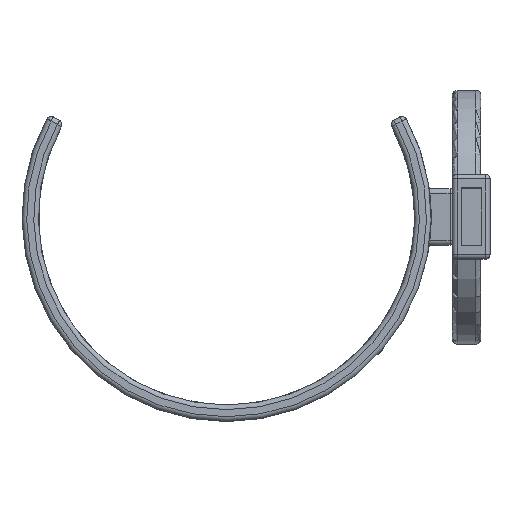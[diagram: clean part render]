
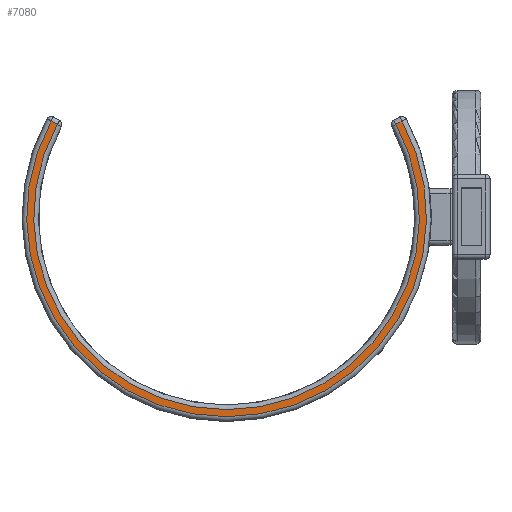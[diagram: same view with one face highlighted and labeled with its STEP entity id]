
A CAD part, top view. The second image highlights one B-rep face of the part: STEP entity #7080.
In plain terms, the highlighted planar face has unit normal (0, 0, 1).
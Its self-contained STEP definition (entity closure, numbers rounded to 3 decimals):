
#5299 = TOROIDAL_SURFACE('',#5300,85.,2.);
#5300 = AXIS2_PLACEMENT_3D('',#5301,#5302,#5303);
#5301 = CARTESIAN_POINT('',(0.,0.,110.
    ));
#5302 = DIRECTION('',(0.,0.,1.));
#5303 = DIRECTION('',(-0.866,0.5,0.));
#6033 = VERTEX_POINT('',#6034);
#6034 = CARTESIAN_POINT('',(-74.592,40.756,112.));
#6056 = VERTEX_POINT('',#6057);
#6057 = CARTESIAN_POINT('',(74.592,40.756,112.));
#6082 = EDGE_CURVE('',#6033,#6056,#6083,.T.);
#6083 = SURFACE_CURVE('',#6084,(#6089,#6096),.PCURVE_S1.);
#6084 = CIRCLE('',#6085,85.);
#6085 = AXIS2_PLACEMENT_3D('',#6086,#6087,#6088);
#6086 = CARTESIAN_POINT('',(0.,0.,112.
    ));
#6087 = DIRECTION('',(0.,0.,1.));
#6088 = DIRECTION('',(-0.866,0.5,0.));
#6089 = PCURVE('',#5299,#6090);
#6090 = DEFINITIONAL_REPRESENTATION('',(#6091),#6095);
#6091 = LINE('',#6092,#6093);
#6092 = CARTESIAN_POINT('',(0.,1.571));
#6093 = VECTOR('',#6094,1.);
#6094 = DIRECTION('',(1.,0.));
#6095 = ( GEOMETRIC_REPRESENTATION_CONTEXT(2) 
PARAMETRIC_REPRESENTATION_CONTEXT() REPRESENTATION_CONTEXT('2D SPACE',''
  ) );
#6096 = PCURVE('',#6097,#6102);
#6097 = PLANE('',#6098);
#6098 = AXIS2_PLACEMENT_3D('',#6099,#6100,#6101);
#6099 = CARTESIAN_POINT('',(0.,-27.277,112.));
#6100 = DIRECTION('',(0.,0.,1.));
#6101 = DIRECTION('',(1.,0.,-0.));
#6102 = DEFINITIONAL_REPRESENTATION('',(#6103),#6107);
#6103 = CIRCLE('',#6104,85.);
#6104 = AXIS2_PLACEMENT_2D('',#6105,#6106);
#6105 = CARTESIAN_POINT('',(0.,27.277));
#6106 = DIRECTION('',(-0.866,0.5));
#6107 = ( GEOMETRIC_REPRESENTATION_CONTEXT(2) 
PARAMETRIC_REPRESENTATION_CONTEXT() REPRESENTATION_CONTEXT('2D SPACE',''
  ) );
#6882 = CYLINDRICAL_SURFACE('',#6883,2.);
#6883 = AXIS2_PLACEMENT_3D('',#6884,#6885,#6886);
#6884 = CARTESIAN_POINT('',(-70.282,38.268,110.));
#6885 = DIRECTION('',(-0.866,0.5,0.));
#6886 = DIRECTION('',(0.5,0.866,-0.));
#7080 = ADVANCED_FACE('',(#7081),#6097,.T.);
#7081 = FACE_BOUND('',#7082,.T.);
#7082 = EDGE_LOOP('',(#7083,#7084,#7112,#7145));
#7083 = ORIENTED_EDGE('',*,*,#6082,.T.);
#7084 = ORIENTED_EDGE('',*,*,#7085,.T.);
#7085 = EDGE_CURVE('',#6056,#7086,#7088,.T.);
#7086 = VERTEX_POINT('',#7087);
#7087 = CARTESIAN_POINT('',(71.993,39.256,112.));
#7088 = SURFACE_CURVE('',#7089,(#7093,#7100),.PCURVE_S1.);
#7089 = LINE('',#7090,#7091);
#7090 = CARTESIAN_POINT('',(76.344,41.768,112.));
#7091 = VECTOR('',#7092,1.);
#7092 = DIRECTION('',(-0.866,-0.5,0.));
#7093 = PCURVE('',#6097,#7094);
#7094 = DEFINITIONAL_REPRESENTATION('',(#7095),#7099);
#7095 = LINE('',#7096,#7097);
#7096 = CARTESIAN_POINT('',(76.344,69.044));
#7097 = VECTOR('',#7098,1.);
#7098 = DIRECTION('',(-0.866,-0.5));
#7099 = ( GEOMETRIC_REPRESENTATION_CONTEXT(2) 
PARAMETRIC_REPRESENTATION_CONTEXT() REPRESENTATION_CONTEXT('2D SPACE',''
  ) );
#7100 = PCURVE('',#7101,#7106);
#7101 = CYLINDRICAL_SURFACE('',#7102,2.);
#7102 = AXIS2_PLACEMENT_3D('',#7103,#7104,#7105);
#7103 = CARTESIAN_POINT('',(76.344,41.768,110.));
#7104 = DIRECTION('',(-0.866,-0.5,0.));
#7105 = DIRECTION('',(-0.5,0.866,0.));
#7106 = DEFINITIONAL_REPRESENTATION('',(#7107),#7111);
#7107 = LINE('',#7108,#7109);
#7108 = CARTESIAN_POINT('',(-1.571,0.));
#7109 = VECTOR('',#7110,1.);
#7110 = DIRECTION('',(-0.,1.));
#7111 = ( GEOMETRIC_REPRESENTATION_CONTEXT(2) 
PARAMETRIC_REPRESENTATION_CONTEXT() REPRESENTATION_CONTEXT('2D SPACE',''
  ) );
#7112 = ORIENTED_EDGE('',*,*,#7113,.T.);
#7113 = EDGE_CURVE('',#7086,#7114,#7116,.T.);
#7114 = VERTEX_POINT('',#7115);
#7115 = CARTESIAN_POINT('',(-71.993,39.256,112.));
#7116 = SURFACE_CURVE('',#7117,(#7122,#7133),.PCURVE_S1.);
#7117 = CIRCLE('',#7118,82.);
#7118 = AXIS2_PLACEMENT_3D('',#7119,#7120,#7121);
#7119 = CARTESIAN_POINT('',(0.,0.,112.)
  );
#7120 = DIRECTION('',(0.,-0.,-1.));
#7121 = DIRECTION('',(0.866,0.5,-0.));
#7122 = PCURVE('',#6097,#7123);
#7123 = DEFINITIONAL_REPRESENTATION('',(#7124),#7132);
#7124 = ( BOUNDED_CURVE() B_SPLINE_CURVE(2,(#7125,#7126,#7127,#7128,
#7129,#7130,#7131),.UNSPECIFIED.,.T.,.F.) B_SPLINE_CURVE_WITH_KNOTS((1,2
    ,2,2,2,1),(-2.094,0.,2.094,4.189,
6.283,8.378),.UNSPECIFIED.) CURVE() 
GEOMETRIC_REPRESENTATION_ITEM() RATIONAL_B_SPLINE_CURVE((1.,0.5,1.,0.5,
1.,0.5,1.)) REPRESENTATION_ITEM('') );
#7125 = CARTESIAN_POINT('',(71.014,68.277));
#7126 = CARTESIAN_POINT('',(142.028,-54.723));
#7127 = CARTESIAN_POINT('',(0.,-54.723));
#7128 = CARTESIAN_POINT('',(-142.028,-54.723));
#7129 = CARTESIAN_POINT('',(-71.014,68.277));
#7130 = CARTESIAN_POINT('',(0.,191.277));
#7131 = CARTESIAN_POINT('',(71.014,68.277));
#7132 = ( GEOMETRIC_REPRESENTATION_CONTEXT(2) 
PARAMETRIC_REPRESENTATION_CONTEXT() REPRESENTATION_CONTEXT('2D SPACE',''
  ) );
#7133 = PCURVE('',#7134,#7139);
#7134 = TOROIDAL_SURFACE('',#7135,82.,2.);
#7135 = AXIS2_PLACEMENT_3D('',#7136,#7137,#7138);
#7136 = CARTESIAN_POINT('',(0.,0.,110.)
  );
#7137 = DIRECTION('',(-0.,-0.,-1.));
#7138 = DIRECTION('',(0.866,0.5,-0.));
#7139 = DEFINITIONAL_REPRESENTATION('',(#7140),#7144);
#7140 = LINE('',#7141,#7142);
#7141 = CARTESIAN_POINT('',(0.,4.712));
#7142 = VECTOR('',#7143,1.);
#7143 = DIRECTION('',(1.,0.));
#7144 = ( GEOMETRIC_REPRESENTATION_CONTEXT(2) 
PARAMETRIC_REPRESENTATION_CONTEXT() REPRESENTATION_CONTEXT('2D SPACE',''
  ) );
#7145 = ORIENTED_EDGE('',*,*,#7146,.T.);
#7146 = EDGE_CURVE('',#7114,#6033,#7147,.T.);
#7147 = SURFACE_CURVE('',#7148,(#7152,#7159),.PCURVE_S1.);
#7148 = LINE('',#7149,#7150);
#7149 = CARTESIAN_POINT('',(-70.282,38.268,112.));
#7150 = VECTOR('',#7151,1.);
#7151 = DIRECTION('',(-0.866,0.5,0.));
#7152 = PCURVE('',#6097,#7153);
#7153 = DEFINITIONAL_REPRESENTATION('',(#7154),#7158);
#7154 = LINE('',#7155,#7156);
#7155 = CARTESIAN_POINT('',(-70.282,65.544));
#7156 = VECTOR('',#7157,1.);
#7157 = DIRECTION('',(-0.866,0.5));
#7158 = ( GEOMETRIC_REPRESENTATION_CONTEXT(2) 
PARAMETRIC_REPRESENTATION_CONTEXT() REPRESENTATION_CONTEXT('2D SPACE',''
  ) );
#7159 = PCURVE('',#6882,#7160);
#7160 = DEFINITIONAL_REPRESENTATION('',(#7161),#7165);
#7161 = LINE('',#7162,#7163);
#7162 = CARTESIAN_POINT('',(-1.571,0.));
#7163 = VECTOR('',#7164,1.);
#7164 = DIRECTION('',(-0.,1.));
#7165 = ( GEOMETRIC_REPRESENTATION_CONTEXT(2) 
PARAMETRIC_REPRESENTATION_CONTEXT() REPRESENTATION_CONTEXT('2D SPACE',''
  ) );
